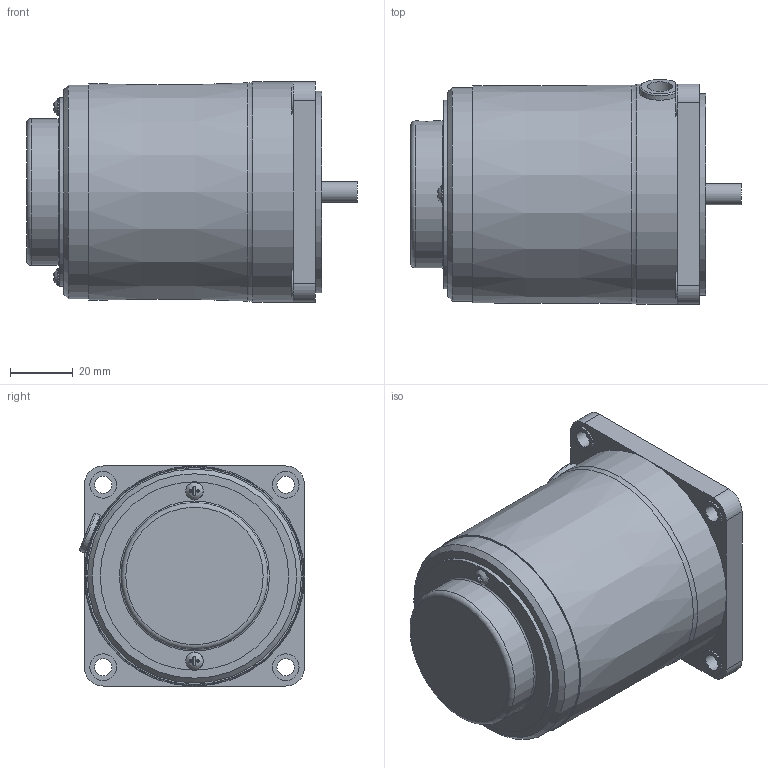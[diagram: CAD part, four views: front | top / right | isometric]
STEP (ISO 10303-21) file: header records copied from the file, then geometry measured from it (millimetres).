
FILE_DESCRIPTION((''),'2;1');
FILE_NAME('D:\STP파일\15W MOTOR\SPEED CONTROL TYPE\S7R15G-S.stp','2013-05-20T16:25:41',('leebh'),(''),'Autodesk Inventor 2011','Autodesk Inventor 2011','');
FILE_SCHEMA(('AUTOMOTIVE_DESIGN { 1 0 10303 214 1 1 1 1 }'));
Length unit declared in the file: millimetre
Products named in the file (1): 부품2
Bounding box: 105.2 x 71.56 x 70 mm (x, y, z)
Volume: 326694.5 mm3; surface area: 32955.7 mm2
Topology: 1 solids, 6 shells, 141 faces, 325 edges, 211 vertices
Faces by surface type: plane 85, cylinder 43, torus 9, bspline 2, cone 2
Full cylindrical faces by diameter (mm): 3 x2, 3.5 x2, 5 x1, 5.5 x4, 5.6 x2, 6.7 x1, 8 x1, 8.5 x4, 10 x1, 28 x1, 44.7 x1, 46.7 x1, 47.7 x1, 59.9 x1, 64 x1, 68 x1, 70 x1
Entity records: 4090 total; most frequent: CARTESIAN_POINT 964, DIRECTION 626, ORIENTED_EDGE 560, EDGE_CURVE 280, AXIS2_PLACEMENT_3D 238, EDGE_LOOP 211, VERTEX_POINT 205, VECTOR 150
